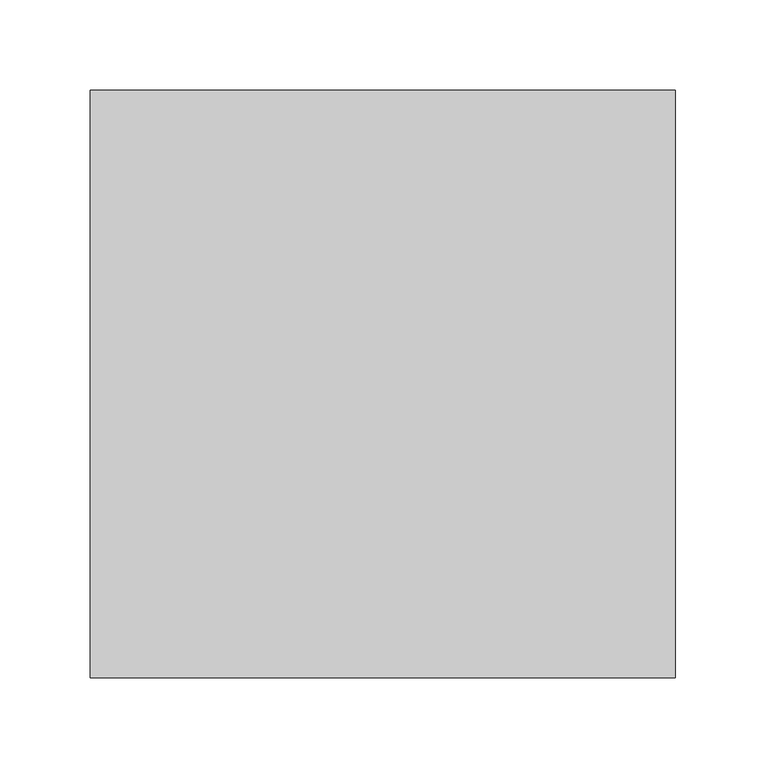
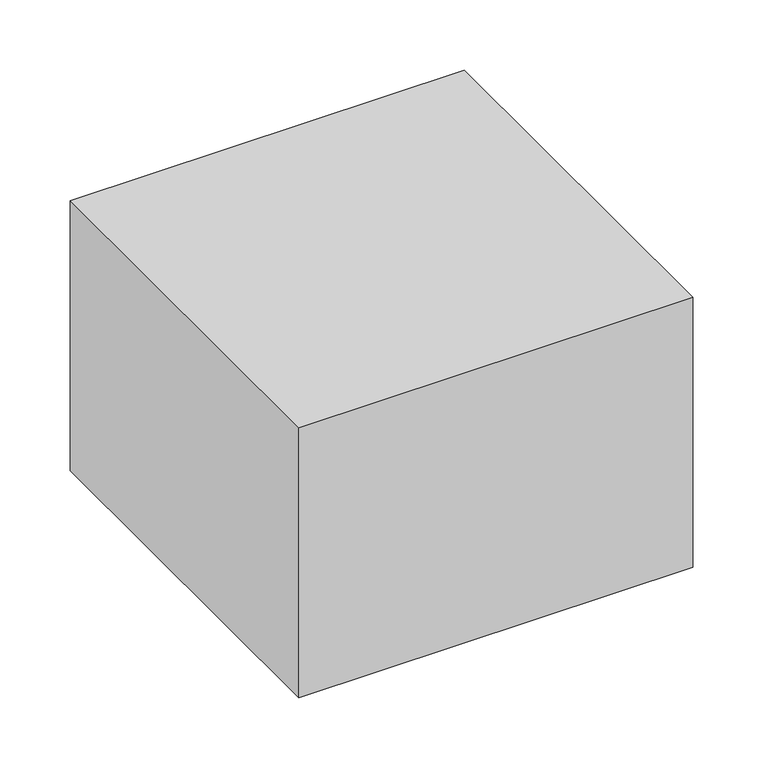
"""IFC4 building model written with IfcOpenShell, lengths in millimetres: column geometry, Column Encasement9 : Column Encasement."""

from ifc_helpers import new_model, si_unit, frame, origin, place, context, project, spatial, polyline, outline, extrude, source, transform, mapped, element, save


def column_adfb2fb4(model_context):
    return source(origin(), model_context, "Body", "SweptSolid", [
        extrude(outline(polyline([(-31932.1278539, 3144.2368568), (-31932.1278539, 3469.8896388), (-31607.7840629, 3469.8896388), (-31607.7840629, 3144.2368568), (-31932.1278539, 3144.2368568)])), frame((0.0, 0.0, 7.0), z_axis=(0.0, 0.0, 1.0), x_axis=(1.0, 0.0, 0.0)), (0.0, 0.0, 1.0), 235.0),
    ])


if __name__ == "__main__":
    model = new_model("IFC4")
    model_context = context("Model", 3, world=origin())
    ifc_project = project(units=[si_unit("LENGTHUNIT", "METRE", prefix="MILLI")], contexts=[model_context])
    site = spatial("IfcSite", under=ifc_project)
    building = spatial("IfcBuilding", under=site)
    placement = place(None, origin())
    column_shape = column_adfb2fb4(model_context)
    element("IfcColumn", 1, ObjectType="Column Encasement9 : Column Encasement", at=placement, inside=building, context=model_context, shape_type="MappedRepresentation", body=[
        mapped(column_shape, transform((0.0, 0.0, 0.0), x_axis=(1.0, 0.0, 0.0), y_axis=(0.0, 1.0, 0.0), z_axis=(0.0, 0.0, 1.0))),
    ])
    save(model, "model.ifc")
